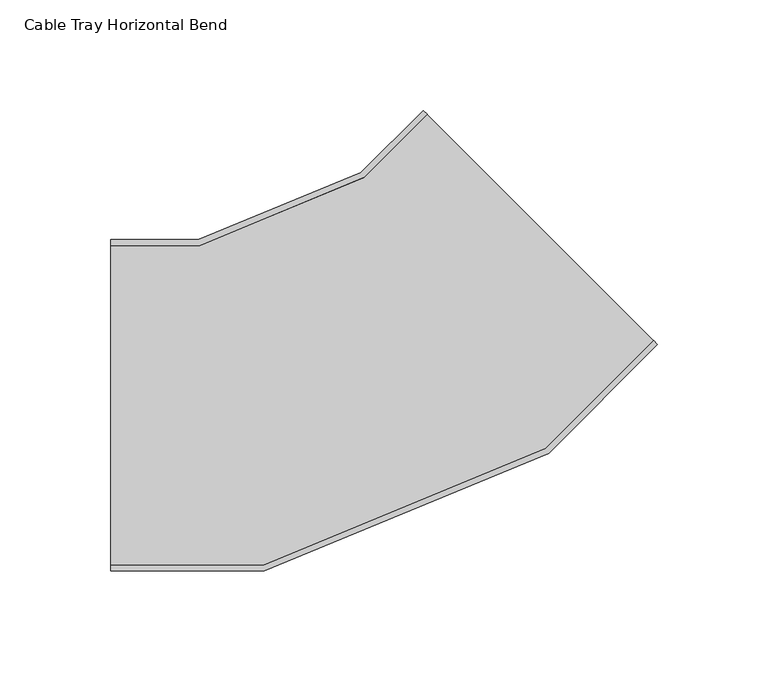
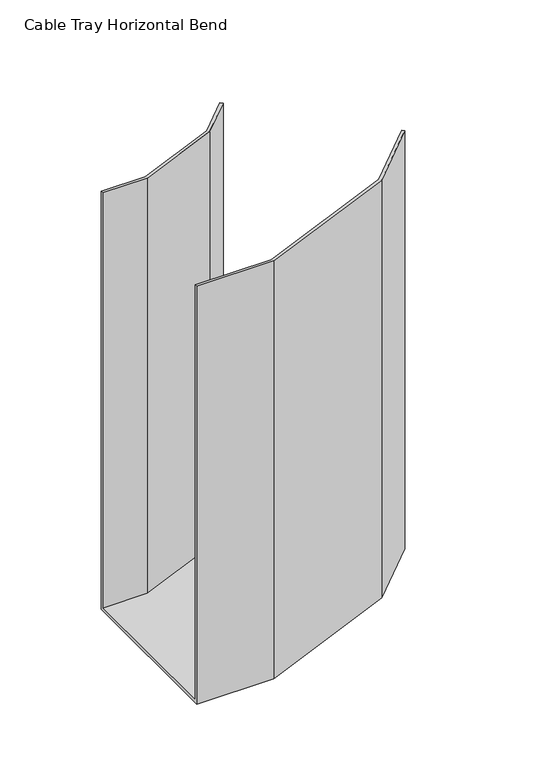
"""IFC4 building model written with IfcOpenShell, lengths in millimetres: cable carrier fitting geometry, Cable Tray Horizontal Bend : ELEC_ELV_TKG_N2402."""

from ifc_helpers import new_model, si_unit, origin, place, context, project, spatial, faceted_brep, source, transform, mapped, element, save


def cable_tray_horizontal_bend_3e94afd1(model_context):
    return source(origin(), model_context, "Body", "Brep", [
        faceted_brep([(-113.9087297, -75.0, -200.0), (-113.9087297, -75.0, 200.0), (-113.9087297, -72.46, 200.0), (-113.9087297, -72.46, -197.46), (-113.9087297, 72.46, -197.46), (-113.9087297, 72.46, 200.0), (-113.9087297, 75.0, 200.0), (-113.9087297, 75.0, -200.0), (133.5786438, 27.5126266, -200.0), (27.5126266, 133.5786438, -200.0), (27.5126266, 133.5786438, 200.0), (29.3086778, 131.7825925, 200.0), (29.3086778, 131.7825925, -197.46), (131.7825925, 29.3086778, -197.46), (131.7825925, 29.3086778, 200.0), (133.5786438, 27.5126266, 200.0), (-44.2894011, -75.0, -200.0), (-44.2894011, -75.0, 200.0), (84.3503444, -21.7156728, 200.0), (82.91155, -19.5623647, 200.0), (-44.7946385, -72.46, 200.0), (-44.7946385, -72.46, -197.46), (82.91155, -19.5623647, -197.46), (0.8209642, 103.294879, -197.46), (-73.6210188, 72.46, -197.46), (-73.6210188, 72.46, 200.0), (0.8209642, 103.294879, 200.0), (-0.6178302, 105.448187, 200.0), (-74.1262562, 75.0, 200.0), (-74.1262562, 75.0, -200.0), (-0.6178302, 105.448187, -200.0), (84.3503444, -21.7156728, -200.0)], [[[0, 1, 2, 3, 4, 5, 6, 7]], [[8, 9, 10, 11, 12, 13, 14, 15]], [[1, 0, 16, 17]], [[2, 1, 17, 18, 15, 14, 19, 20]], [[3, 2, 20, 21]], [[4, 3, 21, 22, 13, 12, 23, 24]], [[5, 4, 24, 25]], [[6, 5, 25, 26, 11, 10, 27, 28]], [[7, 6, 28, 29]], [[0, 7, 29, 30, 9, 8, 31, 16]], [[17, 16, 31, 18]], [[21, 20, 19, 22]], [[25, 24, 23, 26]], [[29, 28, 27, 30]], [[18, 31, 8, 15]], [[22, 19, 14, 13]], [[26, 23, 12, 11]], [[30, 27, 10, 9]]]),
    ])


if __name__ == "__main__":
    model = new_model("IFC4")
    model_context = context("Model", 3, world=origin())
    ifc_project = project(units=[si_unit("LENGTHUNIT", "METRE", prefix="MILLI")], contexts=[model_context])
    site = spatial("IfcSite", under=ifc_project)
    building = spatial("IfcBuilding", under=site)
    placement = place(None, origin())
    cable_tray_horizontal_bend_shape = cable_tray_horizontal_bend_3e94afd1(model_context)
    element("IfcCableCarrierFitting", 1, ObjectType="Cable Tray Horizontal Bend : ELEC_ELV_TKG_N2402", at=placement, inside=building, context=model_context, shape_type="MappedRepresentation", body=[
        mapped(cable_tray_horizontal_bend_shape, transform((0.0, 0.0, 0.0), x_axis=(1.0, 0.0, 0.0), y_axis=(0.0, 1.0, 0.0), z_axis=(0.0, 0.0, 1.0))),
    ])
    save(model, "model.ifc")
